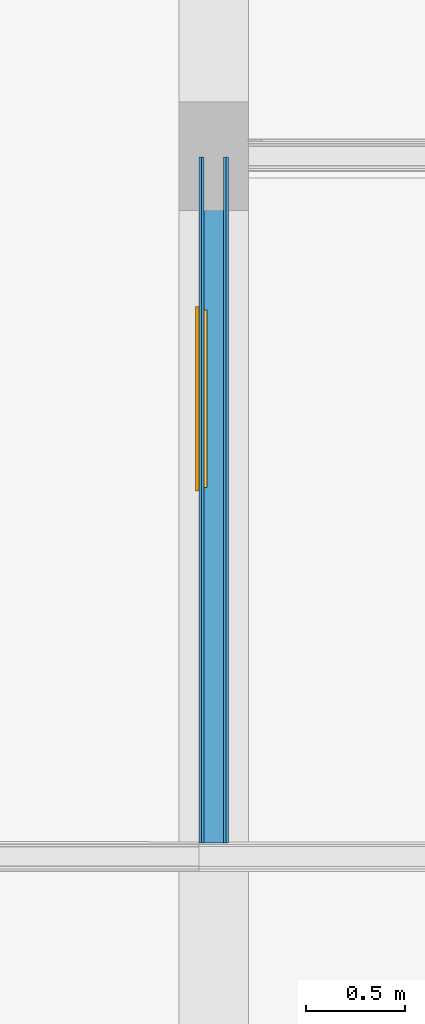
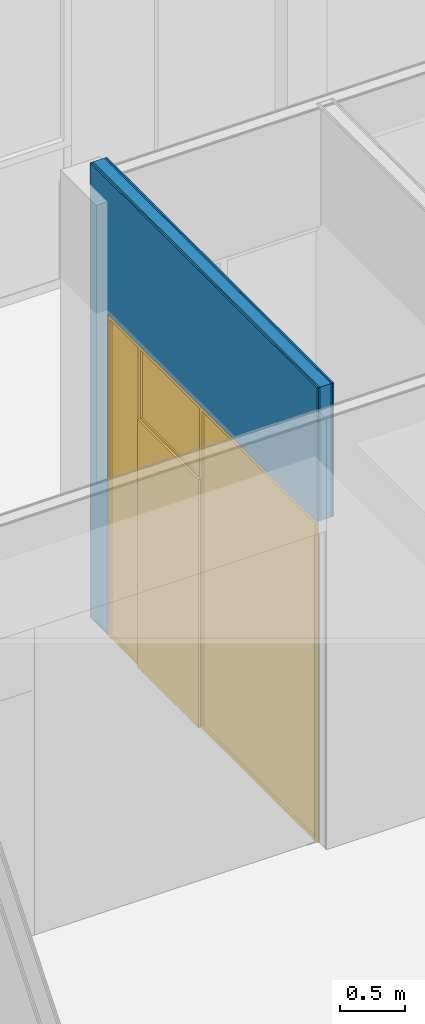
# One storey, part 78 of 94: 5 building element parts, 1 door, 1 opening, 1 element without a shape of its own.
"""IFC2X3 building model written with IfcOpenShell, lengths in millimetres."""

from ifc_helpers import new_model, entity, si_unit, converted_unit, derived_unit, money_unit, direction, frame, origin_with_axes, place, context, subcontext, project, spatial, open_shell, faceted_brep, surface_model, material, type_object, element, fill, aggregate, save


model = new_model("IFC2X3")

# Units and contexts
model_context = context("Model", 3, precision=0.01, world=origin_with_axes(), true_north=direction((0.0, 1.0)))
body_context = subcontext(model_context, "Body", "Model", "MODEL_VIEW")
ifc_project = project(units=[si_unit("LENGTHUNIT", "METRE", prefix="MILLI"), si_unit("AREAUNIT", "SQUARE_METRE"), si_unit("VOLUMEUNIT", "CUBIC_METRE"), converted_unit("PLANEANGLEUNIT", "DEGREE", entity("IfcPlaneAngleMeasure", 0.0174532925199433), si_unit("PLANEANGLEUNIT", "RADIAN"), dimensions=[0, 0, 0, 0, 0, 0, 0]), money_unit("EUR"), converted_unit("TIMEUNIT", "Year", entity("IfcTimeMeasure", 31557600.0), si_unit("TIMEUNIT", "SECOND"), dimensions=[0, 0, 1, 0, 0, 0, 0]), si_unit("MASSUNIT", "GRAM", prefix="KILO"), si_unit("THERMODYNAMICTEMPERATUREUNIT", "DEGREE_CELSIUS"), si_unit("LUMINOUSINTENSITYUNIT", "LUMEN"), si_unit("ENERGYUNIT", "JOULE", prefix="MEGA"), derived_unit("THERMALCONDUCTANCEUNIT", [(si_unit("POWERUNIT", "WATT"), 1), (si_unit("LENGTHUNIT", "METRE"), -1), (si_unit("THERMODYNAMICTEMPERATUREUNIT", "KELVIN"), -1)]), derived_unit("SPECIFICHEATCAPACITYUNIT", [(si_unit("ENERGYUNIT", "JOULE"), 1), (si_unit("MASSUNIT", "GRAM", prefix="KILO"), -1), (si_unit("THERMODYNAMICTEMPERATUREUNIT", "KELVIN"), -1)]), derived_unit("MASSDENSITYUNIT", [(si_unit("MASSUNIT", "GRAM", prefix="KILO"), 1), (si_unit("VOLUMEUNIT", "CUBIC_METRE"), -1)])], contexts=[model_context])

# Site, building, storey
site_placement = place(None, origin_with_axes())
site = spatial("IfcSite", under=ifc_project, at=site_placement, Name="<site naam>", CompositionType="ELEMENT")
building_placement = place(site_placement, origin_with_axes())
building = spatial("IfcBuilding", under=site, at=building_placement, Name="<Naam gebouw>", CompositionType="ELEMENT")
storey_placement = place(building_placement, frame((0.0, 0.0, 4250.0), z_axis=(0.0, 0.0, 1.0), x_axis=(1.0, 0.0, 0.0)))
storey = spatial("IfcBuildingStorey", under=building, at=storey_placement, Name="01 1e verdieping", CompositionType="ELEMENT", Elevation=4250.0)

# Door
door_style = type_object("IfcDoorStyle", Name="D1 bl zl2 27", ConstructionType="NOTDEFINED", OperationType="USERDEFINED", ParameterTakesPrecedence=False, Sizeable=False)
wall_placement = place(storey_placement, frame((20000.00000000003, 7994.601271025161, 0.0), z_axis=(0.0, 0.0, 1.0), x_axis=(0.0, -1.0, 0.0)))
opening_placement = place(wall_placement, frame((1875.000016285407, 0.0, 0.0), z_axis=(0.0, 0.0, 1.0), x_axis=(1.0, 0.0, 0.0)))
door_placement = place(opening_placement, frame((1600.000016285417, 0.0, 0.0), z_axis=(0.0, 0.0, 1.0), x_axis=(-1.0, 0.0, 0.0)))
door = element("IfcDoor", 1, at=door_placement, inside=storey, type_object=door_style, Name="22_BI-F-11_305", ObjectType="DOOR", OverallHeight=3000.0, OverallWidth=3200.0, context=body_context, shape_type="SurfaceModel", body=[
    faceted_brep([(2717.0, 35.00000000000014, 0.0), (2700.000000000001, 35.00000000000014, 0.0), (2700.000000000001, 35.00000000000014, 11.99999999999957), (2717.0, 35.00000000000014, 11.99999999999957), (1783.0, 35.00000000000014, 0.0), (1800.000000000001, 35.00000000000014, 0.0), (1800.000000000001, 54.99999999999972, 0.0), (2700.000000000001, 54.99999999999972, 0.0), (2700.000000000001, 54.99999999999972, 11.99999999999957), (1800.000000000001, 54.99999999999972, 11.99999999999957), (1800.000000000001, 35.00000000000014, 11.99999999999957), (1783.0, 35.00000000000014, 11.99999999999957)], [[[0, 1, 2, 3]], [[0, 4, 5, 6, 7, 1]], [[1, 7, 8, 2]], [[3, 2, 8, 9, 10, 11]], [[4, 0, 3, 11]], [[5, 4, 11, 10]], [[6, 5, 10, 9]], [[7, 6, 9, 8]]]),
    faceted_brep([(3200.000032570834, 74.99999999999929, 0.0), (3200.000032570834, 54.99999999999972, 0.0), (3167.000032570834, 54.99999999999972, 0.0), (3167.000032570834, 74.99999999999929, 0.0), (3200.000032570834, 74.99999999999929, 2967.0), (3200.000032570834, 54.99999999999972, 2967.0), (3167.000032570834, 54.99999999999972, 2967.0), (3167.000032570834, 54.99999999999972, 33.00000000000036), (3167.000032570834, 74.99999999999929, 33.00000000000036), (3167.000032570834, 74.99999999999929, 2967.0)], [[[0, 1, 2, 3]], [[4, 5, 1, 0]], [[1, 5, 6, 7, 2]], [[3, 2, 7, 8]], [[0, 3, 8, 9, 4]], [[9, 6, 5, 4]], [[8, 7, 6, 9]]]),
    faceted_brep([(2717.0, 54.99999999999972, 0.0), (2742.000000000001, 54.99999999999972, 0.0), (2742.000000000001, 54.99999999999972, 32.99999999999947), (2742.000000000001, 54.99999999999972, 2967.0), (2700.000000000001, 54.99999999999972, 2967.0), (2700.000000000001, 54.99999999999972, 2333.0), (2700.000000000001, 54.99999999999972, 2317.0), (2717.0, 54.99999999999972, 2317.0), (2717.0, 74.99999999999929, 0.0), (2742.000000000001, 74.99999999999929, 0.0), (2742.000000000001, 74.99999999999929, 32.99999999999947), (2742.000000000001, 74.99999999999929, 2967.0), (2700.000000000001, 74.99999999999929, 2967.0), (2700.000000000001, 74.99999999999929, 2333.0), (2700.000000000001, 74.99999999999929, 2317.0), (2717.0, 74.99999999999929, 2317.0)], [[[0, 1, 2, 3, 4, 5, 6, 7]], [[8, 9, 1, 0]], [[9, 10, 2, 1]], [[10, 11, 3, 2]], [[11, 12, 4, 3]], [[12, 13, 5, 4]], [[6, 5, 13, 14]], [[14, 15, 7, 6]], [[7, 15, 8, 0]], [[15, 14, 13, 12, 11, 10, 9, 8]]]),
    faceted_brep([(3167.000032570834, 74.99999999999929, 33.00000000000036), (3167.000032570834, 54.99999999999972, 33.00000000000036), (3167.000032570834, 54.99999999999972, 0.0), (3167.000032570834, 74.99999999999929, 0.0), (2742.000000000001, 74.99999999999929, 33.00000000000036), (2742.000000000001, 54.99999999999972, 33.00000000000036), (2742.000000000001, 54.99999999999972, 0.0), (2742.000000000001, 74.99999999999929, 0.0)], [[[0, 1, 2, 3]], [[4, 5, 1, 0]], [[1, 5, 6, 2]], [[3, 2, 6, 7]], [[0, 3, 7, 4]], [[7, 6, 5, 4]]]),
    faceted_brep([(0.0, 74.99999999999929, 0.0), (0.0, 54.99999999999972, 0.0), (0.0, 54.99999999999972, 2967.0), (0.0, 74.99999999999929, 2967.0), (33.00000000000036, 74.99999999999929, 0.0), (33.00000000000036, 54.99999999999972, 0.0), (33.00000000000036, 54.99999999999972, 33.00000000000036), (33.00000000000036, 54.99999999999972, 2967.0), (33.00000000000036, 74.99999999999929, 2967.0), (33.00000000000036, 74.99999999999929, 33.00000000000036)], [[[0, 1, 2, 3]], [[4, 5, 1, 0]], [[1, 5, 6, 7, 2]], [[3, 2, 7, 8]], [[0, 3, 8, 9, 4]], [[9, 6, 5, 4]], [[8, 7, 6, 9]]]),
    faceted_brep([(1783.0, 54.99999999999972, 2317.0), (1800.000000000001, 54.99999999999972, 2317.0), (1800.000000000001, 54.99999999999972, 2333.0), (1800.000000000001, 54.99999999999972, 2967.0), (1758.000000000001, 54.99999999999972, 2967.0), (1758.000000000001, 54.99999999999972, 32.99999999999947), (1758.000000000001, 54.99999999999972, 0.0), (1783.0, 54.99999999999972, 0.0), (1783.0, 74.99999999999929, 2317.0), (1800.000000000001, 74.99999999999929, 2317.0), (1800.000000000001, 74.99999999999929, 2333.0), (1800.000000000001, 74.99999999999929, 2967.0), (1758.000000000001, 74.99999999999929, 2967.0), (1758.000000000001, 74.99999999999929, 32.99999999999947), (1758.000000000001, 74.99999999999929, 0.0), (1783.0, 74.99999999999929, 0.0)], [[[0, 1, 2, 3, 4, 5, 6, 7]], [[0, 8, 9, 1]], [[9, 10, 2, 1]], [[10, 11, 3, 2]], [[11, 12, 4, 3]], [[12, 13, 5, 4]], [[13, 14, 6, 5]], [[7, 6, 14, 15]], [[7, 15, 8, 0]], [[8, 15, 14, 13, 12, 11, 10, 9]]]),
    faceted_brep([(1758.000000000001, 74.99999999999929, 33.00000000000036), (1758.000000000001, 54.99999999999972, 33.00000000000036), (1758.000000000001, 54.99999999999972, 0.0), (1758.000000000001, 74.99999999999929, 0.0), (33.00000000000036, 74.99999999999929, 33.00000000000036), (33.00000000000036, 54.99999999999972, 33.00000000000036), (33.00000000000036, 54.99999999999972, 0.0), (33.00000000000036, 74.99999999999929, 0.0)], [[[0, 1, 2, 3]], [[4, 5, 1, 0]], [[1, 5, 6, 2]], [[3, 2, 6, 7]], [[0, 3, 7, 4]], [[7, 6, 5, 4]]]),
    faceted_brep([(3200.000032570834, 74.99999999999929, 3000.0), (3200.000032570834, 54.99999999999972, 3000.0), (3200.000032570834, 54.99999999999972, 2967.0), (3200.000032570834, 74.99999999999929, 2967.0), (0.0, 74.99999999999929, 3000.0), (0.0, 54.99999999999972, 3000.0), (0.0, 54.99999999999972, 2967.0), (33.00000000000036, 54.99999999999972, 2967.0), (1758.000000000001, 54.99999999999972, 2967.0), (1800.000000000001, 54.99999999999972, 2967.0), (2700.000000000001, 54.99999999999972, 2967.0), (2742.000000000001, 54.99999999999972, 2967.0), (3167.000032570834, 54.99999999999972, 2967.0), (3167.000032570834, 74.99999999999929, 2967.0), (2742.000000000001, 74.99999999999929, 2967.0), (2700.000000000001, 74.99999999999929, 2967.0), (1800.000000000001, 74.99999999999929, 2967.0), (1758.000000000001, 74.99999999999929, 2967.0), (33.00000000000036, 74.99999999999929, 2967.0), (0.0, 74.99999999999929, 2967.0)], [[[0, 1, 2, 3]], [[4, 5, 1, 0]], [[1, 5, 6, 7, 8, 9, 10, 11, 12, 2]], [[3, 2, 12, 13]], [[0, 3, 13, 14, 15, 16, 17, 18, 19, 4]], [[19, 6, 5, 4]], [[18, 7, 6, 19]], [[17, 8, 7, 18]], [[16, 9, 8, 17]], [[15, 10, 9, 16]], [[14, 11, 10, 15]], [[13, 12, 11, 14]]]),
    faceted_brep([(2700.000000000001, 54.99999999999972, 2317.0), (2700.000000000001, 54.99999999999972, 2333.0), (1800.000000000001, 54.99999999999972, 2333.0), (1800.000000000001, 54.99999999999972, 2317.0), (2700.000000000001, 74.99999999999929, 2317.0), (2700.000000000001, 74.99999999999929, 2333.0), (1800.000000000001, 74.99999999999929, 2333.0), (1800.000000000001, 74.99999999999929, 2317.0)], [[[0, 1, 2, 3]], [[4, 5, 1, 0]], [[5, 6, 2, 1]], [[3, 2, 6, 7]], [[7, 4, 0, 3]], [[7, 6, 5, 4]]]),
    faceted_brep([(1783.0, 92.99999999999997, 0.0), (2717.0, 92.99999999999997, 0.0), (2717.0, 52.99999999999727, 0.0), (1783.0, 53.00000000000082, 0.0), (1783.0, 92.99999999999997, 2317.0), (2717.0, 92.99999999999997, 2317.0), (2717.0, 52.99999999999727, 2317.0), (1783.0, 52.99999999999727, 2317.0)], [[[0, 1, 2, 3]], [[0, 4, 5, 1]], [[1, 5, 6, 2]], [[3, 2, 6, 7]], [[4, 0, 3, 7]], [[5, 4, 7, 6]]]),
    surface_model("IfcShellBasedSurfaceModel", [(2700.000000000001, 48.99999999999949, 2333.0), (2700.000000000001, 48.99999999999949, 2967.0), (1800.000000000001, 48.99999999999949, 2967.0), (1800.000000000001, 48.99999999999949, 2333.0)], [open_shell([[[0, 1, 2, 3]]])]),
    surface_model("IfcShellBasedSurfaceModel", [(2700.000000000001, 60.99999999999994, 2333.0), (1800.000000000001, 60.99999999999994, 2333.0), (1800.000000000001, 60.99999999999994, 2967.0), (2700.000000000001, 60.99999999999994, 2967.0)], [open_shell([[[0, 1, 2, 3]]])]),
    surface_model("IfcShellBasedSurfaceModel", [(3167.000032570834, 48.99999999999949, 33.00000000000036), (3167.000032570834, 48.99999999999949, 2967.0), (2742.000000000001, 48.99999999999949, 2967.0), (2742.000000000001, 48.99999999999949, 33.00000000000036)], [open_shell([[[0, 1, 2, 3]]])]),
    surface_model("IfcShellBasedSurfaceModel", [(3167.000032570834, 60.99999999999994, 33.00000000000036), (2742.000000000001, 60.99999999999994, 33.00000000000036), (2742.000000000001, 60.99999999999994, 2967.0), (3167.000032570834, 60.99999999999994, 2967.0)], [open_shell([[[0, 1, 2, 3]]])]),
    surface_model("IfcShellBasedSurfaceModel", [(1758.000000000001, 48.99999999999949, 33.00000000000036), (1758.000000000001, 48.99999999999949, 2967.0), (33.00000000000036, 48.99999999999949, 2967.0), (33.00000000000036, 48.99999999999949, 33.00000000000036)], [open_shell([[[0, 1, 2, 3]]])]),
    surface_model("IfcShellBasedSurfaceModel", [(1758.000000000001, 60.99999999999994, 33.00000000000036), (33.00000000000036, 60.99999999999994, 33.00000000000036), (33.00000000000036, 60.99999999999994, 2967.0), (1758.000000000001, 60.99999999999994, 2967.0)], [open_shell([[[0, 1, 2, 3]]])]),
])

# Wall, opening
wall_type = type_object("IfcWallType", Name="MS-01 GF 150 ECO DGS/2.100.2.A 150", PredefinedType="NOTDEFINED")
wall = element("IfcWall", 2, at=wall_placement, inside=storey, type_object=wall_type, Name="22_Binnenwand_MS-01")
opening = element("IfcOpeningElement", 3, at=opening_placement, cuts=wall, Name="22_BI-F-11_305", context=body_context, shape_type="Brep", body=[
    faceted_brep([(1600.000016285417, 76.00000000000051, 3000.0), (1600.000016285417, 76.00000000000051, 0.0), (-1600.000016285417, 76.00000000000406, 0.0), (-1600.000016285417, 76.00000000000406, 3000.0), (1600.000016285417, -76.00000000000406, 3000.0), (1600.000016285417, -76.00000000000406, 0.0), (-1600.000016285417, -76.00000000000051, 0.0), (-1600.000016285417, -76.00000000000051, 3000.0)], [[[0, 1, 2, 3]], [[4, 5, 1, 0]], [[5, 6, 2, 1]], [[6, 7, 3, 2]], [[7, 4, 0, 3]], [[6, 5, 4, 7]]]),
])

fill(opening, door)

# Building element part
ifc_material_1 = material(Name="gipsplaat")
building_element_part_1_placement = place(wall_placement, origin_with_axes())
building_element_part_1 = element("IfcBuildingElementPart", 4, at=building_element_part_1_placement, material=ifc_material_1, Name="gipsplaat", context=body_context, shape_type="Brep", body=[
    faceted_brep([(73.60364636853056, 74.99999999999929, 19.99999999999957), (3475.000032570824, 74.99999999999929, 19.99999999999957), (3475.000032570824, 74.99999999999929, 0.0), (0.0, 74.99999999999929, 0.0), (0.0, 74.99999999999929, 4250.0), (3475.000032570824, 74.99999999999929, 4250.0), (3475.000032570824, 74.99999999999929, 22.99999999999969), (73.60364636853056, 74.99999999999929, 22.99999999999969), (73.60364636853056, 62.5, 19.99999999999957), (3475.000032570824, 62.5, 19.99999999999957), (3475.000032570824, 62.5, 0.0), (0.0, 62.5, 0.0), (0.0, 62.5, 4250.0), (3475.000032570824, 62.5, 4250.0), (3475.000032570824, 62.5, 22.99999999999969), (73.60364636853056, 62.5, 22.99999999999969)], [[[0, 1, 2, 3, 4, 5, 6, 7]], [[0, 8, 9, 1]], [[1, 9, 10, 2]], [[11, 3, 2, 10]], [[3, 11, 12, 4]], [[4, 12, 13, 5]], [[14, 6, 5, 13]], [[15, 7, 6, 14]], [[0, 7, 15, 8]], [[15, 14, 13, 12, 11, 10, 9, 8]]]),
])

building_element_part_2_placement = place(wall_placement, origin_with_axes())
building_element_part_2 = element("IfcBuildingElementPart", 5, at=building_element_part_2_placement, material=ifc_material_1, Name="gipsplaat", context=body_context, shape_type="Brep", body=[
    faceted_brep([(73.60364636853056, 62.5, 19.99999999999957), (3475.000032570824, 62.5, 19.99999999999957), (3475.000032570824, 62.5, 0.0), (0.0, 62.5, 0.0), (0.0, 62.5, 4250.0), (3475.000032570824, 62.5, 4250.0), (3475.000032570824, 62.5, 22.99999999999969), (73.60364636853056, 62.5, 22.99999999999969), (73.60364636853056, 50.00000000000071, 19.99999999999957), (3475.000032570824, 50.00000000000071, 19.99999999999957), (3475.000032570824, 50.00000000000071, 0.0), (0.0, 50.00000000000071, 0.0), (0.0, 50.00000000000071, 4250.0), (3475.000032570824, 50.00000000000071, 4250.0), (3475.000032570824, 50.00000000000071, 22.99999999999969), (73.60364636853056, 50.00000000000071, 22.99999999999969)], [[[0, 1, 2, 3, 4, 5, 6, 7]], [[0, 8, 9, 1]], [[1, 9, 10, 2]], [[11, 3, 2, 10]], [[3, 11, 12, 4]], [[4, 12, 13, 5]], [[14, 6, 5, 13]], [[15, 7, 6, 14]], [[0, 7, 15, 8]], [[15, 14, 13, 12, 11, 10, 9, 8]]]),
])

ifc_material_2 = material(Name="isolatie_steenwol LSW")
building_element_part_3_placement = place(wall_placement, origin_with_axes())
building_element_part_3 = element("IfcBuildingElementPart", 6, at=building_element_part_3_placement, material=ifc_material_2, Name="isolatie_steenwol LSW", context=body_context, shape_type="Brep", body=[
    faceted_brep([(73.60364636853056, 50.00000000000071, 19.99999999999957), (3475.000032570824, 50.00000000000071, 19.99999999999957), (3475.000032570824, 50.00000000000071, 0.0), (0.0, 50.00000000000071, 0.0), (0.0, 50.00000000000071, 4250.0), (3475.000032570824, 50.00000000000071, 4250.0), (3475.000032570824, 50.00000000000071, 22.99999999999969), (73.60364636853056, 50.00000000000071, 22.99999999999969), (73.60364636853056, -50.00000000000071, 19.99999999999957), (3475.000032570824, -50.00000000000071, 19.99999999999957), (3475.000032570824, -50.00000000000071, 0.0), (0.0, -50.00000000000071, 0.0), (0.0, -50.00000000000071, 4250.0), (3475.000032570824, -50.00000000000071, 4250.0), (3475.000032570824, -50.00000000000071, 22.99999999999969), (73.60364636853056, -50.00000000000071, 22.99999999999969)], [[[0, 1, 2, 3, 4, 5, 6, 7]], [[0, 8, 9, 1]], [[1, 9, 10, 2]], [[11, 3, 2, 10]], [[3, 11, 12, 4]], [[4, 12, 13, 5]], [[14, 6, 5, 13]], [[15, 7, 6, 14]], [[0, 7, 15, 8]], [[15, 14, 13, 12, 11, 10, 9, 8]]]),
])

building_element_part_4_placement = place(wall_placement, origin_with_axes())
building_element_part_4 = element("IfcBuildingElementPart", 7, at=building_element_part_4_placement, material=ifc_material_1, Name="gipsplaat", context=body_context, shape_type="Brep", body=[
    faceted_brep([(73.60364636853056, -50.00000000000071, 19.99999999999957), (3475.000032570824, -50.00000000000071, 19.99999999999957), (3475.000032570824, -50.00000000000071, 0.0), (0.0, -50.00000000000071, 0.0), (0.0, -50.00000000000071, 4250.0), (3475.000032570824, -50.00000000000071, 4250.0), (3475.000032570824, -50.00000000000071, 22.99999999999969), (73.60364636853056, -50.00000000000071, 22.99999999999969), (73.60364636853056, -62.5, 19.99999999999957), (3475.000032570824, -62.5, 19.99999999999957), (3475.000032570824, -62.5, 0.0), (0.0, -62.5, 0.0), (0.0, -62.5, 4250.0), (3475.000032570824, -62.5, 4250.0), (3475.000032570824, -62.5, 22.99999999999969), (73.60364636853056, -62.5, 22.99999999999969)], [[[0, 1, 2, 3, 4, 5, 6, 7]], [[0, 8, 9, 1]], [[1, 9, 10, 2]], [[11, 3, 2, 10]], [[3, 11, 12, 4]], [[4, 12, 13, 5]], [[14, 6, 5, 13]], [[15, 7, 6, 14]], [[0, 7, 15, 8]], [[15, 14, 13, 12, 11, 10, 9, 8]]]),
])

building_element_part_5_placement = place(wall_placement, origin_with_axes())
building_element_part_5 = element("IfcBuildingElementPart", 8, at=building_element_part_5_placement, material=ifc_material_1, Name="gipsplaat", context=body_context, shape_type="Brep", body=[
    faceted_brep([(73.60364636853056, -62.5, 19.99999999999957), (3475.000032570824, -62.5, 19.99999999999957), (3475.000032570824, -62.5, 0.0), (0.0, -62.5, 0.0), (0.0, -62.5, 4250.0), (3475.000032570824, -62.5, 4250.0), (3475.000032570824, -62.5, 22.99999999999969), (73.60364636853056, -62.5, 22.99999999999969), (73.60364636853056, -74.99999999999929, 19.99999999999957), (3469.601303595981, -74.99999999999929, 19.99999999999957), (3475.000032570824, -74.99999999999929, 19.99999999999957), (3475.000032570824, -74.99999999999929, 0.0), (0.0, -74.99999999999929, 0.0), (0.0, -74.99999999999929, 4250.0), (3475.000032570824, -74.99999999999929, 4250.0), (3475.000032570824, -74.99999999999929, 22.99999999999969), (3469.601303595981, -74.99999999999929, 22.99999999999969), (73.60364636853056, -74.99999999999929, 22.99999999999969)], [[[0, 1, 2, 3, 4, 5, 6, 7]], [[0, 8, 9, 10, 1]], [[1, 10, 11, 2]], [[12, 3, 2, 11]], [[3, 12, 13, 4]], [[4, 13, 14, 5]], [[15, 6, 5, 14]], [[16, 17, 7, 6, 15]], [[0, 7, 17, 8]], [[17, 16, 15, 14, 13, 12, 11, 10, 9, 8]]]),
])

aggregate(wall, [building_element_part_1, building_element_part_2, building_element_part_3, building_element_part_4, building_element_part_5])

save(model, "model.ifc")
